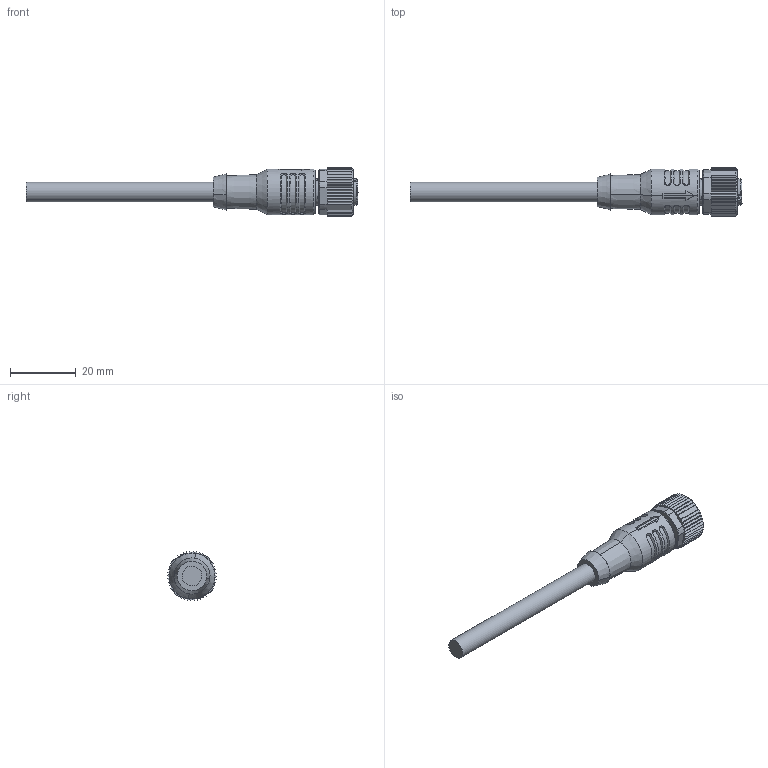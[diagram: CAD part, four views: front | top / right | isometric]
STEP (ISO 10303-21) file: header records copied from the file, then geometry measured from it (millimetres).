
FILE_DESCRIPTION (( 'STEP AP203' ), '1' );
FILE_NAME ('64S081-XXX.STEP', '2023-09-16T07:47:04', ( 'ADMIN' ), ( '' ), 'SwSTEP 2.0', 'SolidWorks 2016', '' );
FILE_SCHEMA (( 'CONFIG_CONTROL_DESIGN' ));
Length unit declared in the file: millimetre
Products named in the file (1): 64S081-XXX
Bounding box: 101.04 x 15 x 14.98 mm (x, y, z)
Volume: 6556.2 mm3; surface area: 4434.6 mm2
Topology: 1 solids, 1 shells, 423 faces, 1187 edges, 784 vertices
Faces by surface type: plane 194, cylinder 100, bspline 75, cone 52, torus 2
Entity records: 22840 total; most frequent: CARTESIAN_POINT 13141, ORIENTED_EDGE 2374, DIRECTION 1434, EDGE_CURVE 1187, VERTEX_POINT 784, B_SPLINE_CURVE_WITH_KNOTS 624, AXIS2_PLACEMENT_3D 528, EDGE_LOOP 453
